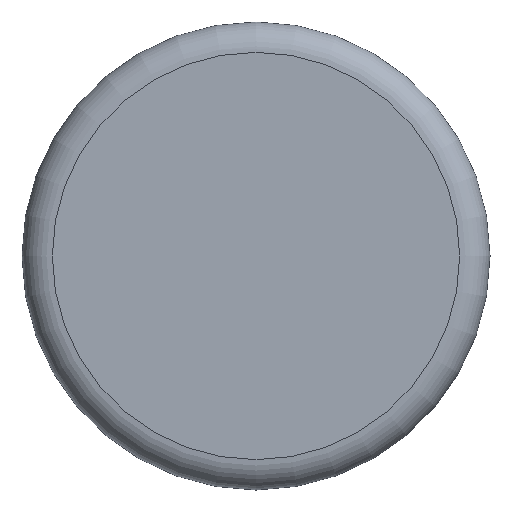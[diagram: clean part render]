
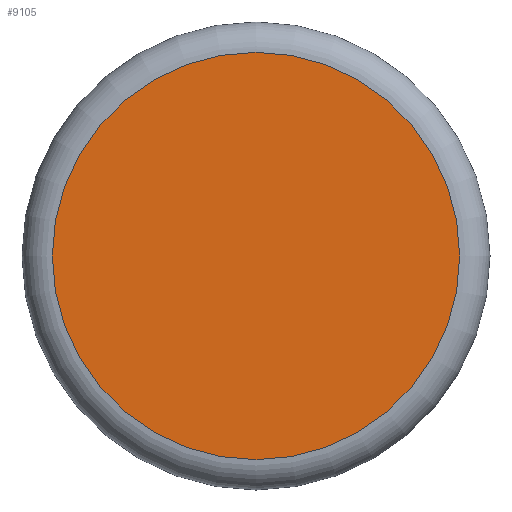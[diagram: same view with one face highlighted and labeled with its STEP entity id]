
A CAD part, left-side view. The second image highlights one B-rep face of the part: STEP entity #9105.
In plain terms, the highlighted planar face has unit normal (-1, 0, 0).
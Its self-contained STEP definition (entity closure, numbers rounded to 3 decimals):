
#1245=CIRCLE('',#9904,154.5);
#2103=ORIENTED_EDGE('',*,*,#5015,.T.);
#5015=EDGE_CURVE('',#6461,#6461,#1245,.T.);
#6461=VERTEX_POINT('',#14477);
#7694=EDGE_LOOP('',(#2103));
#8348=FACE_BOUND('',#7694,.T.);
#8982=PLANE('',#9903);
#9105=ADVANCED_FACE('',(#8348),#8982,.T.);
#9903=AXIS2_PLACEMENT_3D('',#14475,#11410,#11411);
#9904=AXIS2_PLACEMENT_3D('',#14476,#11412,#11413);
#11410=DIRECTION('',(-1.,0.,0.));
#11411=DIRECTION('',(0.,0.,1.));
#11412=DIRECTION('',(-1.,0.,0.));
#11413=DIRECTION('',(0.,0.,1.));
#14475=CARTESIAN_POINT('',(0.,0.,0.));
#14476=CARTESIAN_POINT('',(0.,0.,0.));
#14477=CARTESIAN_POINT('',(0.,0.,154.5));
